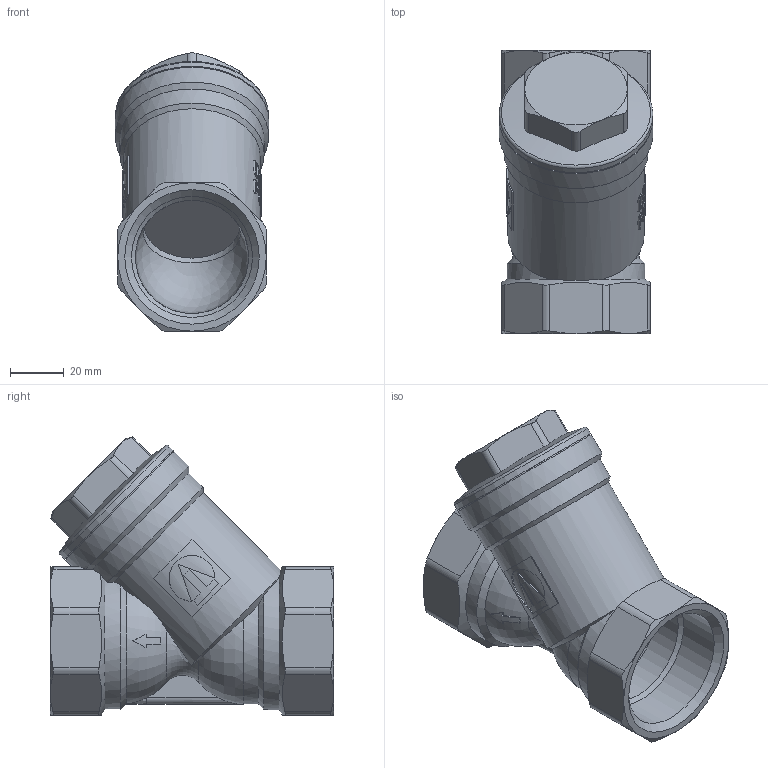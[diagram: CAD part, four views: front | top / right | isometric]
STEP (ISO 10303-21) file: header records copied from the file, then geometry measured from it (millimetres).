
FILE_DESCRIPTION(('STEP AP242'), '1');
FILE_NAME('VT.192.N.08', '', ('UNSPECIFIED'), ('UNSPECIFIED'), 'C3D Converter', 'C3D Toolkit', '');
FILE_SCHEMA(('AP242_MANAGED_MODEL_BASED_3D_ENGINEERING_MIM_LF { 1 0 10303 442 1 1 4 }'));
Length unit declared in the file: millimetre
Products named in the file (1): ВР.061146.021.000 СБ
Bounding box: 57 x 105 x 103.12 mm (x, y, z)
Volume: 200927.7 mm3; surface area: 46561.8 mm2
Topology: 2 solids, 2 shells, 360 faces, 973 edges, 639 vertices
Faces by surface type: plane 134, extrusion 123, cylinder 58, cone 32, torus 9, sphere 2, bspline 2
Full cylindrical faces by diameter (mm): 36 x1, 42 x1, 44.846 x2, 47 x2, 47.5 x1, 55 x2, 57 x2
Entity records: 20942 total; most frequent: CARTESIAN_POINT 12785, ORIENTED_EDGE 1910, DIRECTION 1212, EDGE_CURVE 955, VERTEX_POINT 639, B_SPLINE_CURVE_WITH_KNOTS 550, VECTOR 462, EDGE_LOOP 402
